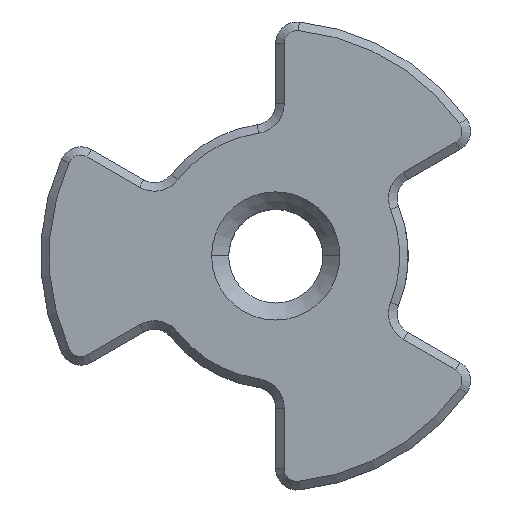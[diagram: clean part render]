
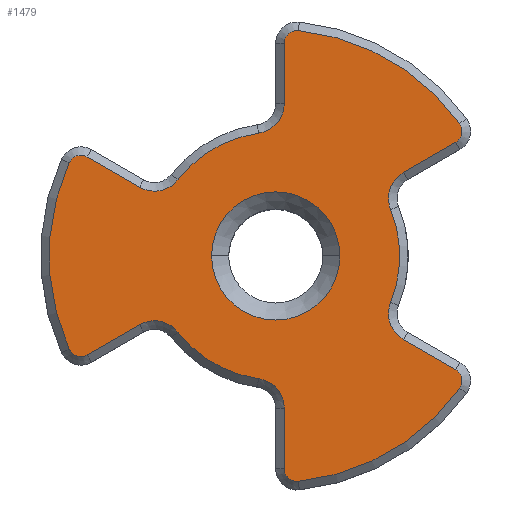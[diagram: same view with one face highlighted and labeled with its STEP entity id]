
A CAD part, top view. The second image highlights one B-rep face of the part: STEP entity #1479.
In plain terms, the highlighted planar face has unit normal (0, 0, 1).
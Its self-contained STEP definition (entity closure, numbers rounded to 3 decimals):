
#292=CARTESIAN_POINT('',(0.,0.,7.5));
#293=DIRECTION('',(0.,0.,1.));
#294=DIRECTION('',(-1.,0.,0.));
#295=AXIS2_PLACEMENT_3D('',#292,#293,#294);
#297=CARTESIAN_POINT('',(0.,0.,7.5));
#298=DIRECTION('',(0.,0.,1.));
#299=DIRECTION('',(1.,0.,0.));
#300=AXIS2_PLACEMENT_3D('',#297,#298,#299);
#302=CARTESIAN_POINT('',(3.337,-1.35,7.5));
#303=DIRECTION('',(0.,0.,-1.));
#304=DIRECTION('',(-0.5,-0.866,0.));
#305=AXIS2_PLACEMENT_3D('',#302,#303,#304);
#307=DIRECTION('',(-0.866,0.5,0.));
#308=VECTOR('',#307,1.41);
#309=CARTESIAN_POINT('',(4.208,-2.661,7.5));
#310=LINE('',#309,#308);
#311=CARTESIAN_POINT('',(4.058,-2.92,7.5));
#312=DIRECTION('',(0.,0.,1.));
#313=DIRECTION('',(0.812,-0.584,0.));
#314=AXIS2_PLACEMENT_3D('',#311,#312,#313);
#316=CARTESIAN_POINT('',(0.,0.,7.5));
#317=DIRECTION('',(0.,0.,1.));
#318=DIRECTION('',(0.1,-0.995,0.));
#319=AXIS2_PLACEMENT_3D('',#316,#317,#318);
#321=CARTESIAN_POINT('',(0.5,-4.975,7.5));
#322=DIRECTION('',(0.,0.,1.));
#323=DIRECTION('',(-1.,0.,0.));
#324=AXIS2_PLACEMENT_3D('',#321,#322,#323);
#326=DIRECTION('',(0.,-1.,0.));
#327=VECTOR('',#326,1.41);
#328=CARTESIAN_POINT('',(0.2,-3.565,7.5));
#329=LINE('',#328,#327);
#330=CARTESIAN_POINT('',(-0.5,-3.565,7.5));
#331=DIRECTION('',(0.,0.,-1.));
#332=DIRECTION('',(0.139,0.99,0.));
#333=AXIS2_PLACEMENT_3D('',#330,#331,#332);
#335=CARTESIAN_POINT('',(0.,0.,7.5));
#336=DIRECTION('',(0.,0.,1.));
#337=DIRECTION('',(-0.788,-0.615,0.));
#338=AXIS2_PLACEMENT_3D('',#335,#336,#337);
#340=CARTESIAN_POINT('',(-2.837,-2.216,7.5));
#341=DIRECTION('',(0.,0.,-1.));
#342=DIRECTION('',(-0.5,0.866,0.));
#343=AXIS2_PLACEMENT_3D('',#340,#341,#342);
#345=DIRECTION('',(0.866,0.5,0.));
#346=VECTOR('',#345,1.41);
#347=CARTESIAN_POINT('',(-4.408,-2.314,7.5));
#348=LINE('',#347,#346);
#349=CARTESIAN_POINT('',(-4.558,-2.054,7.5));
#350=DIRECTION('',(0.,0.,1.));
#351=DIRECTION('',(-0.912,-0.411,0.));
#352=AXIS2_PLACEMENT_3D('',#349,#350,#351);
#354=CARTESIAN_POINT('',(0.,0.,7.5));
#355=DIRECTION('',(0.,0.,1.));
#356=DIRECTION('',(-0.912,0.411,0.));
#357=AXIS2_PLACEMENT_3D('',#354,#355,#356);
#359=CARTESIAN_POINT('',(-4.558,2.054,7.5));
#360=DIRECTION('',(0.,0.,1.));
#361=DIRECTION('',(0.5,0.866,0.));
#362=AXIS2_PLACEMENT_3D('',#359,#360,#361);
#364=DIRECTION('',(-0.866,0.5,0.));
#365=VECTOR('',#364,1.41);
#366=CARTESIAN_POINT('',(-3.187,1.609,7.5));
#367=LINE('',#366,#365);
#368=CARTESIAN_POINT('',(-2.837,2.216,7.5));
#369=DIRECTION('',(0.,0.,-1.));
#370=DIRECTION('',(0.788,-0.615,0.));
#371=AXIS2_PLACEMENT_3D('',#368,#369,#370);
#373=CARTESIAN_POINT('',(0.,0.,7.5));
#374=DIRECTION('',(0.,0.,1.));
#375=DIRECTION('',(-0.139,0.99,0.));
#376=AXIS2_PLACEMENT_3D('',#373,#374,#375);
#378=CARTESIAN_POINT('',(-0.5,3.565,7.5));
#379=DIRECTION('',(0.,0.,-1.));
#380=DIRECTION('',(1.,0.,0.));
#381=AXIS2_PLACEMENT_3D('',#378,#379,#380);
#383=DIRECTION('',(0.,-1.,0.));
#384=VECTOR('',#383,1.41);
#385=CARTESIAN_POINT('',(0.2,4.975,7.5));
#386=LINE('',#385,#384);
#387=CARTESIAN_POINT('',(0.5,4.975,7.5));
#388=DIRECTION('',(0.,0.,1.));
#389=DIRECTION('',(0.1,0.995,0.));
#390=AXIS2_PLACEMENT_3D('',#387,#388,#389);
#392=CARTESIAN_POINT('',(0.,0.,7.5));
#393=DIRECTION('',(0.,0.,1.));
#394=DIRECTION('',(0.812,0.584,0.));
#395=AXIS2_PLACEMENT_3D('',#392,#393,#394);
#397=CARTESIAN_POINT('',(4.058,2.92,7.5));
#398=DIRECTION('',(0.,0.,1.));
#399=DIRECTION('',(0.5,-0.866,0.));
#400=AXIS2_PLACEMENT_3D('',#397,#398,#399);
#402=DIRECTION('',(0.866,0.5,0.));
#403=VECTOR('',#402,1.41);
#404=CARTESIAN_POINT('',(2.987,1.956,7.5));
#405=LINE('',#404,#403);
#406=CARTESIAN_POINT('',(3.337,1.35,7.5));
#407=DIRECTION('',(0.,0.,-1.));
#408=DIRECTION('',(-0.927,-0.375,0.));
#409=AXIS2_PLACEMENT_3D('',#406,#407,#408);
#411=CARTESIAN_POINT('',(0.,0.,7.5));
#412=DIRECTION('',(0.,0.,1.));
#413=DIRECTION('',(0.927,-0.375,0.));
#414=AXIS2_PLACEMENT_3D('',#411,#412,#413);
#841=CARTESIAN_POINT('',(1.5,0.,7.5));
#843=VERTEX_POINT('',#841);
#845=CARTESIAN_POINT('',(-1.5,0.,7.5));
#847=VERTEX_POINT('',#845);
#952=CARTESIAN_POINT('',(2.987,-1.956,7.5));
#953=CARTESIAN_POINT('',(2.689,-1.087,7.5));
#954=VERTEX_POINT('',#952);
#955=VERTEX_POINT('',#953);
#960=CARTESIAN_POINT('',(2.689,1.087,7.5));
#961=VERTEX_POINT('',#960);
#964=CARTESIAN_POINT('',(2.987,1.956,7.5));
#965=VERTEX_POINT('',#964);
#968=CARTESIAN_POINT('',(4.208,2.661,7.5));
#969=VERTEX_POINT('',#968);
#972=CARTESIAN_POINT('',(4.302,3.096,7.5));
#973=VERTEX_POINT('',#972);
#976=CARTESIAN_POINT('',(0.53,5.273,7.5));
#977=VERTEX_POINT('',#976);
#980=CARTESIAN_POINT('',(0.2,4.975,7.5));
#981=VERTEX_POINT('',#980);
#984=CARTESIAN_POINT('',(0.2,3.565,7.5));
#985=VERTEX_POINT('',#984);
#988=CARTESIAN_POINT('',(-0.403,2.872,7.5));
#989=VERTEX_POINT('',#988);
#992=CARTESIAN_POINT('',(-2.286,1.785,7.5));
#993=VERTEX_POINT('',#992);
#996=CARTESIAN_POINT('',(-3.187,1.609,7.5));
#997=VERTEX_POINT('',#996);
#1000=CARTESIAN_POINT('',(-4.408,2.314,7.5));
#1001=VERTEX_POINT('',#1000);
#1004=CARTESIAN_POINT('',(-4.832,2.178,7.5));
#1005=VERTEX_POINT('',#1004);
#1008=CARTESIAN_POINT('',(-4.832,-2.178,7.5));
#1009=VERTEX_POINT('',#1008);
#1012=CARTESIAN_POINT('',(-4.408,-2.314,7.5));
#1013=VERTEX_POINT('',#1012);
#1016=CARTESIAN_POINT('',(-3.187,-1.609,
7.5));
#1017=VERTEX_POINT('',#1016);
#1020=CARTESIAN_POINT('',(-2.286,-1.785,7.5));
#1021=VERTEX_POINT('',#1020);
#1024=CARTESIAN_POINT('',(-0.403,-2.872,7.5));
#1025=VERTEX_POINT('',#1024);
#1028=CARTESIAN_POINT('',(0.2,-3.565,7.5));
#1029=VERTEX_POINT('',#1028);
#1032=CARTESIAN_POINT('',(0.2,-4.975,
7.5));
#1033=VERTEX_POINT('',#1032);
#1036=CARTESIAN_POINT('',(0.53,-5.273,7.5));
#1037=VERTEX_POINT('',#1036);
#1040=CARTESIAN_POINT('',(4.302,-3.096,7.5));
#1041=VERTEX_POINT('',#1040);
#1044=CARTESIAN_POINT('',(4.208,-2.661,7.5));
#1045=VERTEX_POINT('',#1044);
#1419=CARTESIAN_POINT('',(0.,0.,7.5));
#1420=DIRECTION('',(0.,0.,1.));
#1421=DIRECTION('',(1.,0.,0.));
#1422=AXIS2_PLACEMENT_3D('',#1419,#1420,#1421);
#1423=PLANE('',#1422);
#1425=ORIENTED_EDGE('',*,*,#1424,.F.);
#1427=ORIENTED_EDGE('',*,*,#1426,.F.);
#1429=ORIENTED_EDGE('',*,*,#1428,.F.);
#1431=ORIENTED_EDGE('',*,*,#1430,.F.);
#1433=ORIENTED_EDGE('',*,*,#1432,.F.);
#1435=ORIENTED_EDGE('',*,*,#1434,.F.);
#1437=ORIENTED_EDGE('',*,*,#1436,.F.);
#1439=ORIENTED_EDGE('',*,*,#1438,.F.);
#1441=ORIENTED_EDGE('',*,*,#1440,.F.);
#1443=ORIENTED_EDGE('',*,*,#1442,.F.);
#1445=ORIENTED_EDGE('',*,*,#1444,.F.);
#1447=ORIENTED_EDGE('',*,*,#1446,.F.);
#1449=ORIENTED_EDGE('',*,*,#1448,.F.);
#1451=ORIENTED_EDGE('',*,*,#1450,.F.);
#1453=ORIENTED_EDGE('',*,*,#1452,.F.);
#1455=ORIENTED_EDGE('',*,*,#1454,.F.);
#1457=ORIENTED_EDGE('',*,*,#1456,.F.);
#1459=ORIENTED_EDGE('',*,*,#1458,.F.);
#1460=ORIENTED_EDGE('',*,*,#1409,.F.);
#1462=ORIENTED_EDGE('',*,*,#1461,.F.);
#1464=ORIENTED_EDGE('',*,*,#1463,.F.);
#1466=ORIENTED_EDGE('',*,*,#1465,.F.);
#1468=ORIENTED_EDGE('',*,*,#1467,.F.);
#1470=ORIENTED_EDGE('',*,*,#1469,.F.);
#1471=EDGE_LOOP('',(#1425,#1427,#1429,#1431,#1433,#1435,#1437,#1439,#1441,#1443,
#1445,#1447,#1449,#1451,#1453,#1455,#1457,#1459,#1460,#1462,#1464,#1466,#1468,
#1470));
#1472=FACE_OUTER_BOUND('',#1471,.F.);
#1474=ORIENTED_EDGE('',*,*,#1473,.T.);
#1476=ORIENTED_EDGE('',*,*,#1475,.T.);
#1477=EDGE_LOOP('',(#1474,#1476));
#1478=FACE_BOUND('',#1477,.F.);
#1479=ADVANCED_FACE('',(#1472,#1478),#1423,.T.);
#296=CIRCLE('',#295,1.5);
#301=CIRCLE('',#300,1.5);
#306=CIRCLE('',#305,0.7);
#315=CIRCLE('',#314,0.3);
#320=CIRCLE('',#319,5.3);
#325=CIRCLE('',#324,0.3);
#334=CIRCLE('',#333,0.7);
#339=CIRCLE('',#338,2.9);
#344=CIRCLE('',#343,0.7);
#353=CIRCLE('',#352,0.3);
#358=CIRCLE('',#357,5.3);
#363=CIRCLE('',#362,0.3);
#372=CIRCLE('',#371,0.7);
#377=CIRCLE('',#376,2.9);
#382=CIRCLE('',#381,0.7);
#391=CIRCLE('',#390,0.3);
#396=CIRCLE('',#395,5.3);
#401=CIRCLE('',#400,0.3);
#410=CIRCLE('',#409,0.7);
#415=CIRCLE('',#414,2.9);
#1409=EDGE_CURVE('',#977,#981,#391,.T.);
#1424=EDGE_CURVE('',#954,#955,#306,.T.);
#1426=EDGE_CURVE('',#1045,#954,#310,.T.);
#1428=EDGE_CURVE('',#1041,#1045,#315,.T.);
#1430=EDGE_CURVE('',#1037,#1041,#320,.T.);
#1432=EDGE_CURVE('',#1033,#1037,#325,.T.);
#1434=EDGE_CURVE('',#1029,#1033,#329,.T.);
#1436=EDGE_CURVE('',#1025,#1029,#334,.T.);
#1438=EDGE_CURVE('',#1021,#1025,#339,.T.);
#1440=EDGE_CURVE('',#1017,#1021,#344,.T.);
#1442=EDGE_CURVE('',#1013,#1017,#348,.T.);
#1444=EDGE_CURVE('',#1009,#1013,#353,.T.);
#1446=EDGE_CURVE('',#1005,#1009,#358,.T.);
#1448=EDGE_CURVE('',#1001,#1005,#363,.T.);
#1450=EDGE_CURVE('',#997,#1001,#367,.T.);
#1452=EDGE_CURVE('',#993,#997,#372,.T.);
#1454=EDGE_CURVE('',#989,#993,#377,.T.);
#1456=EDGE_CURVE('',#985,#989,#382,.T.);
#1458=EDGE_CURVE('',#981,#985,#386,.T.);
#1461=EDGE_CURVE('',#973,#977,#396,.T.);
#1463=EDGE_CURVE('',#969,#973,#401,.T.);
#1465=EDGE_CURVE('',#965,#969,#405,.T.);
#1467=EDGE_CURVE('',#961,#965,#410,.T.);
#1469=EDGE_CURVE('',#955,#961,#415,.T.);
#1473=EDGE_CURVE('',#847,#843,#296,.T.);
#1475=EDGE_CURVE('',#843,#847,#301,.T.);
